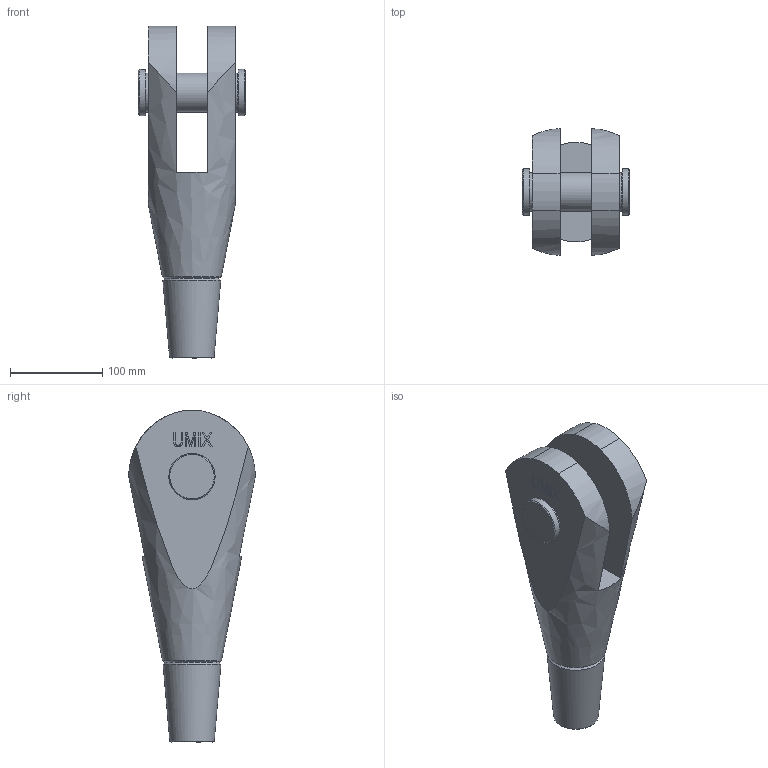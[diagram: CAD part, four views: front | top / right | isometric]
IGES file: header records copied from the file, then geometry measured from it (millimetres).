
Global section: file name: 520-042-GAK; native system: Autodesk Inventor 2016; preprocessor: unknown; author: Administrator; date: 20200625.075542; units: centimetre
Bounding box: 116.44 x 136.98 x 359 mm (x, y, z)
Volume: 1840152.4 mm3; surface area: 175397 mm2
Topology: 2 solids, 4 shells, 186 faces, 492 edges, 329 vertices
Faces by surface type: bspline 186
